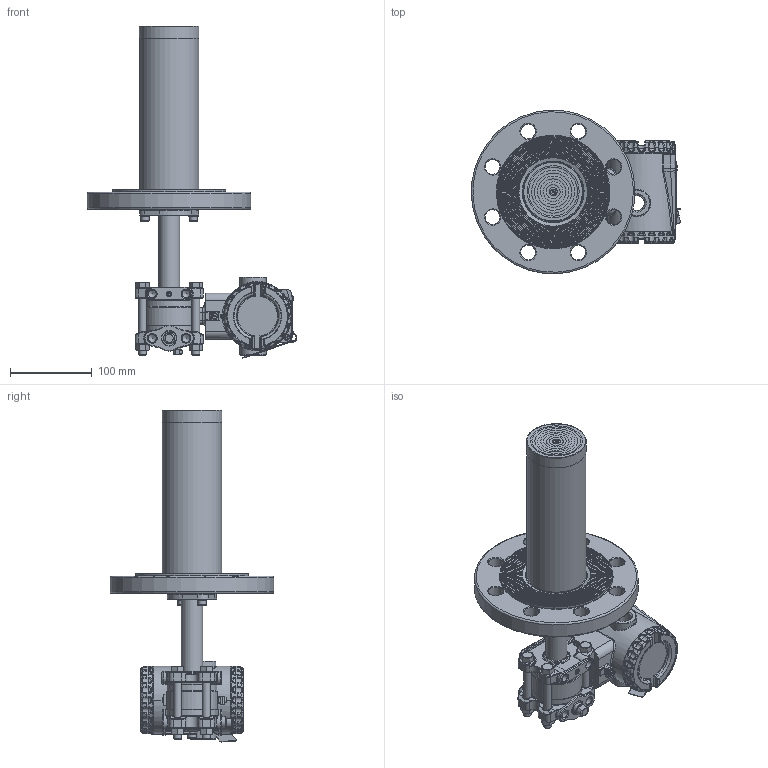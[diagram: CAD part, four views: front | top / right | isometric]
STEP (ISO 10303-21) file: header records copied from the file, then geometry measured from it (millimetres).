
FILE_DESCRIPTION(/* description */ (''),/* implementation_level */ '2;1');
FILE_NAME(/* name */ 'F:\Area\Desenvolvimento_2\Projects\Sensor\projetos\LD400-3d\dimensionais 3D clientes\LD400L\LD400L DN80 PN40 RF ext 200 ref 1-4NPT purga acima.stp',/* time_stamp */ '2023-02-23T17:19:38-03:00',/* author */ ('inventor02'),/* organization */ (''),/* preprocessor_version */ 'ST-DEVELOPER v17',/* originating_system */ 'Autodesk Inventor 2019',/* authorisation */ '');
FILE_SCHEMA (('CONFIG_CONTROL_DESIGN'));
Products named in the file (41): LD30XL DN80 PN40 RF ext 200 ref 1-4NPT purga acima; 204-0301-L-DN80 PN40 RF ext 200 purga acima; nivel fx3 com baixa diferencial 1-4NPT purga acima; involucro fx0-3 apos a usinagem final; flange diferencial std purga; 101-C-7484-01 flange selo nivel VR; 201-A-0504-tubo união teste 1; bujao 1-4NPT; Sangria; Porca 3-8 x 16 UNC; Paraf. 3-8 x 16 UNC; adaptação tubo x flanges 1-1-2 a 4pol; 101-B-0161-anel cortado do tubo - teste1; 101-B-0162-flange fixação tubo; ANSI B18.3.1M - M6x1 x 16; DIN 127 - A 6; flange DN80 PN40 ext 200; 101-C-0138-12; 096-B-0199-14; 101-B-7701-02 ext 3-200; Carcaça 400 com tampas e plaqueta sem letras; 101-D-0845-05 carcaça LD400 sem letras; 101-B-3614-03-tampa 400 sem letras; Tampa visor 400 montada sem letras; 101-B-3612-05 tampa visor 400 sem letras; 101-A-6107; oring 2034; 00034775-0; WHW_250; DIN 915 - M6 x 10; Chapa aterramento externo; 201-A-1771-02 inserto terra recartilhado; AS 1969 - ST4,2; ISO 1207 - M4 x 8; ANSI B18.3.1M - M4x0,7 x 8; Subconjunto plaqueta 400; plaqueta 400 em branco; Parafuso da Plaqueta; Rebite da Plaqueta; 096-A-0169-03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
Assembly tree (50 placements, depth 4):
  LD30XL DN80 PN40 RF ext 200 ref 1-4NPT purga acima
    204-0301-L-DN80 PN40 RF ext 200 purga acima
      nivel fx3 com baixa diferencial 1-4NPT purga acima
        involucro fx0-3 apos a usinagem final
        flange diferencial std purga
        101-C-7484-01 flange selo nivel VR
        201-A-0504-tubo união teste 1
        DIN 915 - M6 x 10
        bujao 1-4NPT
        Sangria
        Porca 3-8 x 16 UNC  x4
        Paraf. 3-8 x 16 UNC  x4
      adaptação tubo x flanges 1-1-2 a 4pol
        101-B-0161-anel cortado do tubo - teste1
        101-B-0162-flange fixação tubo
        ANSI B18.3.1M - M6x1 x 16  x2
        DIN 127 - A 6  x2
      flange DN80 PN40 ext 200
        101-C-0138-12
        096-B-0199-14
        101-B-7701-02 ext 3-200
    Carcaça 400 com tampas e plaqueta sem letras
      101-D-0845-05 carcaça LD400 sem letras
      101-B-3614-03-tampa 400 sem letras
      Tampa visor 400 montada sem letras
        101-B-3612-05 tampa visor 400 sem letras
        101-A-6107
        oring 2034
        00034775-0
        WHW_250
      DIN 915 - M6 x 10
      Chapa aterramento externo
      201-A-1771-02 inserto terra recartilhado
      AS 1969 - ST4,2
      ISO 1207 - M4 x 8
      ANSI B18.3.1M - M4x0,7 x 8  x2
      Subconjunto plaqueta 400
        plaqueta 400 em branco
        Parafuso da Plaqueta
        Rebite da Plaqueta
        096-A-0169-03
        101-A-0502-01
Bounding box: 255.66 x 199.81 x 405.42 mm (x, y, z)
Volume: 1458499.5 mm3; surface area: 437568.4 mm2
Topology: 43 solids, 43 shells, 2827 faces, 6825 edges, 4106 vertices
Faces by surface type: plane 748, cylinder 668, bspline 605, torus 500, cone 230, sphere 76
Full cylindrical faces by diameter (mm): 2 x4, 2.1 x1, 2.2 x1, 2.459 x3, 2.5 x1, 2.7 x1, 2.8 x1, 3 x4, 3.242 x3, 3.5 x1, 3.571 x1, 4 x5, 4.3 x2, 4.4 x1, 4.917 x4, 5 x1, 5.5 x3, 6 x6, 6.1 x2, 6.2 x1, 6.647 x1, 7 x5, 7.6 x2, 7.798 x4, 8 x1, 9.525 x4, 9.728 x6, 10 x2, 10.5 x8, 10.719 x2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
Entity records: 100292 total; most frequent: CARTESIAN_POINT 37346, DIRECTION 13034, ORIENTED_EDGE 12890, EDGE_CURVE 6445, AXIS2_PLACEMENT_3D 5600, VERTEX_POINT 3912, CIRCLE 3261, EDGE_LOOP 2897
